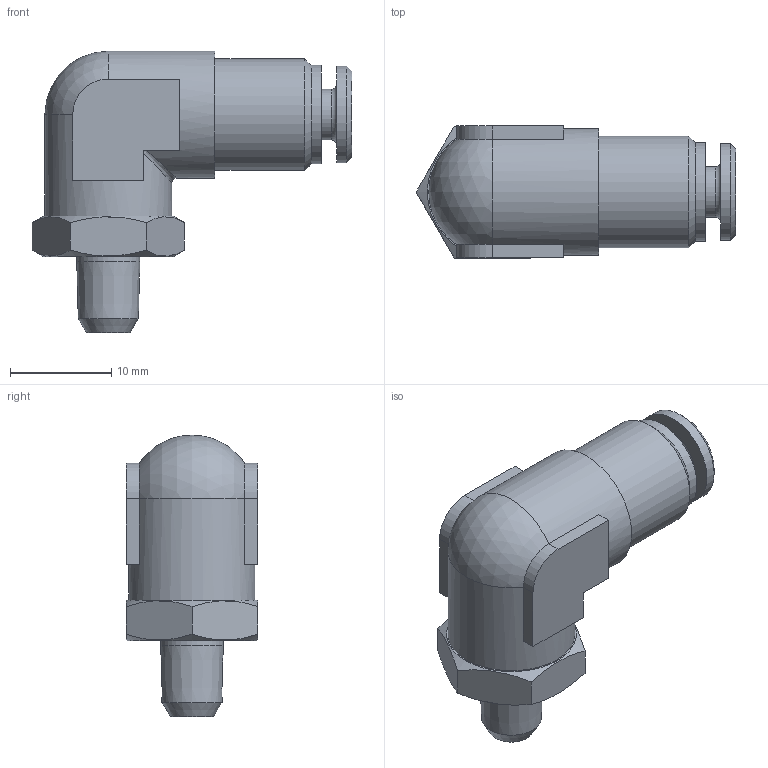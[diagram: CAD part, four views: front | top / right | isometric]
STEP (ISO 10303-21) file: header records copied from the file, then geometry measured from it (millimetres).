
FILE_DESCRIPTION(/* description */ (''),/* implementation_level */ '2;1');
FILE_NAME(/* name */ 'H220406_HDS022K_4_M6X1K_08.05.17',/* time_stamp */ '2017-05-08T11:13:30+02:00',/* author */ (''),/* organization */ (''),/* preprocessor_version */ 'ST-DEVELOPER v16.5',/* originating_system */ 'HiCAD 2016 2102.1 Build 498',/* authorisation */ '');
FILE_SCHEMA (('AUTOMOTIVE_DESIGN { 1 0 10303 214 1 1 1 1 }'));
Length unit declared in the file: millimetre
Products named in the file (4): Root; ONLINE_DR4_HDS_26.11.15; ROTATIONSTEIL_0; RIVOLUZIONE_0
Assembly tree (3 placements, depth 2):
  Root
    ONLINE_DR4_HDS_26.11.15
    ROTATIONSTEIL_0
    RIVOLUZIONE_0
Bounding box: 31.51 x 13 x 27.75 mm (x, y, z)
Volume: 3635.3 mm3; surface area: 3590.5 mm2
Topology: 3 solids, 3 shells, 79 faces, 170 edges, 105 vertices
Faces by surface type: plane 35, cylinder 21, cone 18, torus 3, sphere 1, bspline 1
Full cylindrical faces by diameter (mm): 3 x2, 4.2 x2, 5 x1, 6 x1, 6.219 x1, 7.3 x1, 8 x1, 8.3 x1, 9 x2, 9.5 x1, 9.7 x1, 10.1 x2, 11 x1, 12.5 x2
Entity records: 3645 total; most frequent: CARTESIAN_POINT 786, DIRECTION 358, PRESENTATION_STYLE_ASSIGNMENT 247, COLOUR_RGB 246, DRAUGHTING_PRE_DEFINED_CURVE_FONT 244, CURVE_STYLE 244, OVER_RIDING_STYLED_ITEM 244, ORIENTED_EDGE 244
